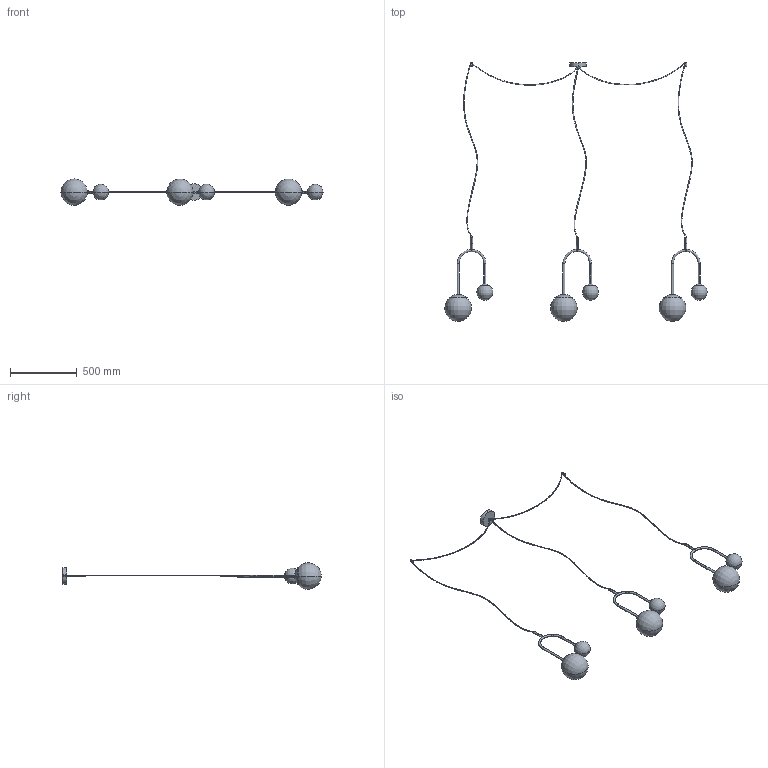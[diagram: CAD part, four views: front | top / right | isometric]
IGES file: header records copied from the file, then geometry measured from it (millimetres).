
Start section: SolidWorks IGES file using analytic representation for surfaces
Global section: file name: Y:\eforma\TECNICO\SOLIDWORKS\E-FORMA\09-LAMPADE\DECOR\02 parts\DEC03_Decor 3 sospensione.IGS; native system: SolidWorks 2022; preprocessor: SolidWorks 2022; author: eforma.tech; date: 240806.104042; units: millimetre
Bounding box: 1969.36 x 1942.16 x 196 mm (x, y, z)
Volume: 16246926.4 mm3; surface area: 750466.8 mm2
Topology: 7 solids, 7 shells, 111 faces, 244 edges, 145 vertices
Faces by surface type: revolution 68, bspline 22, plane 21
